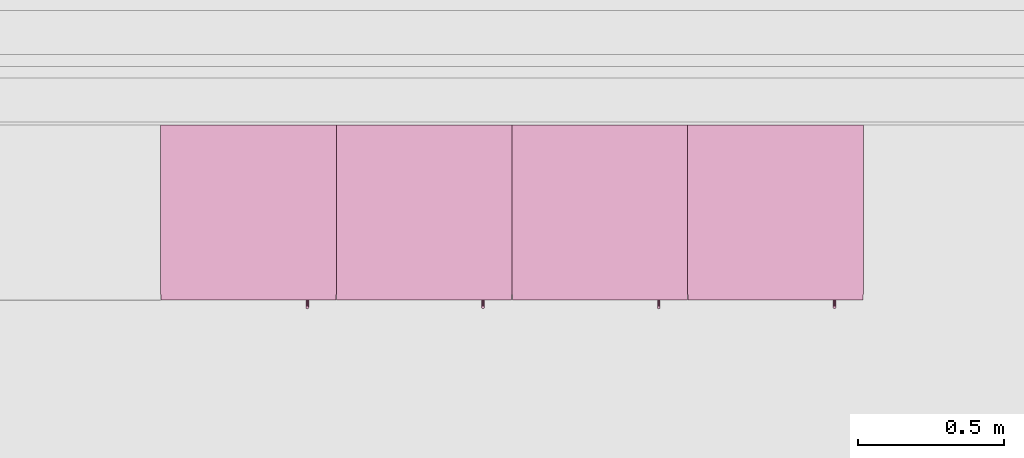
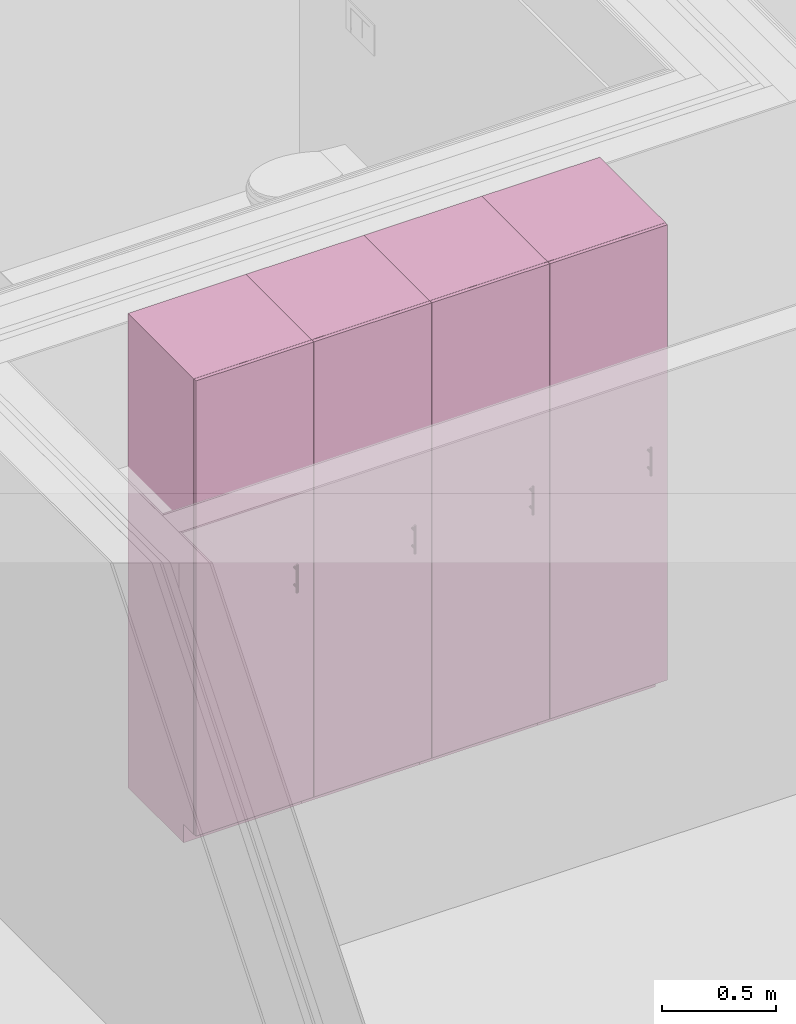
# One storey, part 30 of 34: 4 furniture elements.
"""IFC4 building model written with IfcOpenShell, lengths in millimetres."""

from ifc_helpers import new_model, entity, si_unit, converted_unit, derived_unit, direction, frame, origin_with_axes, place, context, subcontext, project, spatial, polygons, source, transform, mapped, type_object, element, save


model = new_model("IFC4")

# Units and contexts
model_context = context("Model", 3, precision=0.01, world=origin_with_axes(), true_north=direction((0.0, 1.0)))
body_context = subcontext(model_context, "Body", "Model", "MODEL_VIEW")
ifc_project = project(units=[si_unit("LENGTHUNIT", "METRE", prefix="MILLI"), si_unit("AREAUNIT", "SQUARE_METRE"), si_unit("VOLUMEUNIT", "CUBIC_METRE"), converted_unit("PLANEANGLEUNIT", "DEGREE", entity("IfcPlaneAngleMeasure", 0.0174532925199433), si_unit("PLANEANGLEUNIT", "RADIAN"), dimensions=[0, 0, 0, 0, 0, 0, 0]), converted_unit("TIMEUNIT", "Year", entity("IfcTimeMeasure", 31557600.0), si_unit("TIMEUNIT", "SECOND"), dimensions=[0, 0, 1, 0, 0, 0, 0]), si_unit("MASSUNIT", "GRAM", prefix="KILO"), si_unit("THERMODYNAMICTEMPERATUREUNIT", "DEGREE_CELSIUS"), si_unit("LUMINOUSINTENSITYUNIT", "LUMEN"), si_unit("ENERGYUNIT", "JOULE", prefix="MEGA"), derived_unit("THERMALCONDUCTANCEUNIT", [(si_unit("POWERUNIT", "WATT"), 1), (si_unit("LENGTHUNIT", "METRE"), -1), (si_unit("THERMODYNAMICTEMPERATUREUNIT", "KELVIN"), -1)]), derived_unit("SPECIFICHEATCAPACITYUNIT", [(si_unit("ENERGYUNIT", "JOULE"), 1), (si_unit("MASSUNIT", "GRAM", prefix="KILO"), -1), (si_unit("THERMODYNAMICTEMPERATUREUNIT", "KELVIN"), -1)]), derived_unit("MASSDENSITYUNIT", [(si_unit("MASSUNIT", "GRAM", prefix="KILO"), 1), (si_unit("VOLUMEUNIT", "CUBIC_METRE"), -1)])], contexts=[model_context])

# Site, building, storey
site_placement = place(None, origin_with_axes())
site = spatial("IfcSite", under=ifc_project, at=site_placement, Name="Gelände", CompositionType="ELEMENT")
building_placement = place(site_placement, origin_with_axes())
building = spatial("IfcBuilding", under=site, at=building_placement, Name="Gebäude", CompositionType="ELEMENT")
storey_placement = place(building_placement, frame((0.0, 0.0, 2900.0), z_axis=(0.0, 0.0, 1.0), x_axis=(1.0, 0.0, 0.0)))
storey = spatial("IfcBuildingStorey", under=building, at=storey_placement, Name="1.OG", CompositionType="ELEMENT", Elevation=2900.0)

# Furniture
furniture_type = type_object("IfcFurnitureType", Name="Stehender Schrank Block 27", AssemblyPlace="NOTDEFINED", PredefinedType="NOTDEFINED")
shared_shape = source(origin_with_axes(), body_context, "Body", "Tessellation", [
    polygons([(501.8682408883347, -597.9999999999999, 1377.799012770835), (502.7101007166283, -597.9999999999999, 1377.573437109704), (503.4999999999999, -597.9999999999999, 1377.205101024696), (504.2139380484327, -597.9999999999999, 1376.705196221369), (504.8302222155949, -597.9999999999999, 1376.088912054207), (505.3301270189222, -597.9999999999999, 1375.374974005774), (505.6984631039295, -597.9999999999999, 1374.585074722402), (505.924038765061, -597.9999999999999, 1373.743214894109), (506.0, -597.9999999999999, 1372.874974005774), (505.924038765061, -597.9999999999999, 1372.00673311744), (505.6984631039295, -597.9999999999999, 1371.164873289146), (505.3301270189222, -597.9999999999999, 1370.374974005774), (504.8302222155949, -597.9999999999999, 1369.661035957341), (504.2139380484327, -597.9999999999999, 1369.044751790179), (503.4999999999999, -597.9999999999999, 1368.544846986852), (502.7101007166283, -597.9999999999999, 1368.176510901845), (501.8682408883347, -597.9999999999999, 1367.950935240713), (501.0, -597.9999999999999, 1367.874974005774), (500.1317591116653, -597.9999999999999, 1367.950935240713), (499.2898992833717, -597.9999999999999, 1368.176510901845), (498.5, -597.9999999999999, 1368.544846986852), (497.7860619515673, -597.9999999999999, 1369.044751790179), (497.1697777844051, -597.9999999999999, 1369.661035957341), (496.6698729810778, -597.9999999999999, 1370.374974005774), (496.3015368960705, -597.9999999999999, 1371.164873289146), (496.075961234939, -597.9999999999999, 1372.00673311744), (496.0, -597.9999999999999, 1372.874974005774), (496.075961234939, -597.9999999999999, 1373.743214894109), (496.3015368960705, -597.9999999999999, 1374.585074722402), (496.6698729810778, -597.9999999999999, 1375.374974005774), (497.1697777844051, -597.9999999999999, 1376.088912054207), (497.7860619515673, -597.9999999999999, 1376.705196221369), (498.5, -597.9999999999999, 1377.205101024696), (499.2898992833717, -597.9999999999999, 1377.573437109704), (500.1317591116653, -597.9999999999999, 1377.799012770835), (501.0, -597.9999999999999, 1377.874974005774), (501.8682408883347, -622.9999999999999, 1377.799012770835), (502.7101007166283, -622.9999999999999, 1377.573437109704), (503.4999999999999, -622.9999999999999, 1377.205101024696), (504.2139380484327, -622.9999999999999, 1376.705196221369), (504.8302222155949, -622.9999999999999, 1376.088912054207), (505.3301270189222, -622.9999999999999, 1375.374974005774), (505.6984631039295, -622.9999999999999, 1374.585074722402), (505.924038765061, -622.9999999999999, 1373.743214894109), (506.0, -622.9999999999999, 1372.874974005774), (505.924038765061, -622.9999999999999, 1372.00673311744), (505.6984631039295, -622.9999999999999, 1371.164873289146), (505.3301270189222, -622.9999999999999, 1370.374974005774), (504.8302222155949, -622.9999999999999, 1369.661035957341), (504.2139380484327, -622.9999999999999, 1369.044751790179), (503.4999999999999, -622.9999999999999, 1368.544846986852), (502.7101007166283, -622.9999999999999, 1368.176510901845), (501.8682408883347, -622.9999999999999, 1367.950935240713), (501.0, -622.9999999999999, 1367.874974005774), (500.1317591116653, -622.9999999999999, 1367.950935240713), (499.2898992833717, -622.9999999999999, 1368.176510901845), (498.5, -622.9999999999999, 1368.544846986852), (497.7860619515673, -622.9999999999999, 1369.044751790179), (497.1697777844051, -622.9999999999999, 1369.661035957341), (496.6698729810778, -622.9999999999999, 1370.374974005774), (496.3015368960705, -622.9999999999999, 1371.164873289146), (496.075961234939, -622.9999999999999, 1372.00673311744), (496.0, -622.9999999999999, 1372.874974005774), (496.075961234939, -622.9999999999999, 1373.743214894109), (496.3015368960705, -622.9999999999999, 1374.585074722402), (496.6698729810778, -622.9999999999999, 1375.374974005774), (497.1697777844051, -622.9999999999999, 1376.088912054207), (497.7860619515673, -622.9999999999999, 1376.705196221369), (498.5, -622.9999999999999, 1377.205101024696), (499.2898992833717, -622.9999999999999, 1377.573437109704), (500.1317591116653, -622.9999999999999, 1377.799012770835), (501.0, -622.9999999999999, 1377.874974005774)], [[[1, 2, 3, 4, 5, 6, 7, 8, 9, 10, 11, 12, 13, 14, 15, 16, 17, 18, 19, 20, 21, 22, 23, 24, 25, 26, 27, 28, 29, 30, 31, 32, 33, 34, 35, 36]], [[2, 1, 37, 38]], [[3, 2, 38, 39]], [[4, 3, 39, 40]], [[5, 4, 40, 41]], [[6, 5, 41, 42]], [[7, 6, 42, 43]], [[8, 7, 43, 44]], [[9, 8, 44, 45]], [[10, 9, 45, 46]], [[11, 10, 46, 47]], [[12, 11, 47, 48]], [[13, 12, 48, 49]], [[14, 13, 49, 50]], [[15, 14, 50, 51]], [[16, 15, 51, 52]], [[17, 16, 52, 53]], [[18, 17, 53, 54]], [[19, 18, 54, 55]], [[20, 19, 55, 56]], [[21, 20, 56, 57]], [[22, 21, 57, 58]], [[23, 22, 58, 59]], [[24, 23, 59, 60]], [[25, 24, 60, 61]], [[26, 25, 61, 62]], [[27, 26, 62, 63]], [[28, 27, 63, 64]], [[29, 28, 64, 65]], [[30, 29, 65, 66]], [[31, 30, 66, 67]], [[32, 31, 67, 68]], [[33, 32, 68, 69]], [[34, 33, 69, 70]], [[35, 34, 70, 71]], [[36, 35, 71, 72]], [[1, 36, 72, 37]], [[37, 72, 71, 70, 69, 68, 67, 66, 65, 64, 63, 62, 61, 60, 59, 58, 57, 56, 55, 54, 53, 52, 51, 50, 49, 48, 47, 46, 45, 44, 43, 42, 41, 40, 39, 38]]], closed=True),
    polygons([(501.8682408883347, -597.9999999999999, 1274.200935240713), (501.0, -597.9999999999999, 1274.124974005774), (500.1317591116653, -597.9999999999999, 1274.200935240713), (499.2898992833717, -597.9999999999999, 1274.426510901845), (498.5, -597.9999999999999, 1274.794846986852), (497.7860619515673, -597.9999999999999, 1275.294751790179), (497.1697777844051, -597.9999999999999, 1275.911035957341), (496.6698729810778, -597.9999999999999, 1276.624974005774), (496.3015368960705, -597.9999999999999, 1277.414873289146), (496.075961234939, -597.9999999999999, 1278.25673311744), (496.0, -597.9999999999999, 1279.124974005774), (496.075961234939, -597.9999999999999, 1279.993214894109), (496.3015368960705, -597.9999999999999, 1280.835074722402), (496.6698729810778, -597.9999999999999, 1281.624974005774), (497.1697777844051, -597.9999999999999, 1282.338912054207), (497.7860619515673, -597.9999999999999, 1282.955196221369), (498.5, -597.9999999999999, 1283.455101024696), (499.2898992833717, -597.9999999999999, 1283.823437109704), (500.1317591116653, -597.9999999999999, 1284.049012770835), (501.0, -597.9999999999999, 1284.124974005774), (501.8682408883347, -597.9999999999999, 1284.049012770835), (502.7101007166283, -597.9999999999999, 1283.823437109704), (503.4999999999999, -597.9999999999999, 1283.455101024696), (504.2139380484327, -597.9999999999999, 1282.955196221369), (504.8302222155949, -597.9999999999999, 1282.338912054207), (505.3301270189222, -597.9999999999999, 1281.624974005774), (505.6984631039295, -597.9999999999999, 1280.835074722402), (505.924038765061, -597.9999999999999, 1279.993214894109), (506.0, -597.9999999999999, 1279.124974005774), (505.924038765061, -597.9999999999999, 1278.25673311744), (505.6984631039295, -597.9999999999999, 1277.414873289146), (505.3301270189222, -597.9999999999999, 1276.624974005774), (504.8302222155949, -597.9999999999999, 1275.911035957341), (504.2139380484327, -597.9999999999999, 1275.294751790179), (503.4999999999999, -597.9999999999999, 1274.794846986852), (502.7101007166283, -597.9999999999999, 1274.426510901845), (501.8682408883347, -622.9999999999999, 1274.200935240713), (501.0, -622.9999999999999, 1274.124974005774), (500.1317591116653, -622.9999999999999, 1274.200935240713), (499.2898992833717, -622.9999999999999, 1274.426510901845), (498.5, -622.9999999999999, 1274.794846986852), (497.7860619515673, -622.9999999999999, 1275.294751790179), (497.1697777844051, -622.9999999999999, 1275.911035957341), (496.6698729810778, -622.9999999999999, 1276.624974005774), (496.3015368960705, -622.9999999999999, 1277.414873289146), (496.075961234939, -622.9999999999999, 1278.25673311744), (496.0, -622.9999999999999, 1279.124974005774), (496.075961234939, -622.9999999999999, 1279.993214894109), (496.3015368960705, -622.9999999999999, 1280.835074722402), (496.6698729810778, -622.9999999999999, 1281.624974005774), (497.1697777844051, -622.9999999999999, 1282.338912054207), (497.7860619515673, -622.9999999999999, 1282.955196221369), (498.5, -622.9999999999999, 1283.455101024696), (499.2898992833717, -622.9999999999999, 1283.823437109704), (500.1317591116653, -622.9999999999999, 1284.049012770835), (501.0, -622.9999999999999, 1284.124974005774), (501.8682408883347, -622.9999999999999, 1284.049012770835), (502.7101007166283, -622.9999999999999, 1283.823437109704), (503.4999999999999, -622.9999999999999, 1283.455101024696), (504.2139380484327, -622.9999999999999, 1282.955196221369), (504.8302222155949, -622.9999999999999, 1282.338912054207), (505.3301270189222, -622.9999999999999, 1281.624974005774), (505.6984631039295, -622.9999999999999, 1280.835074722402), (505.924038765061, -622.9999999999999, 1279.993214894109), (506.0, -622.9999999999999, 1279.124974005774), (505.924038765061, -622.9999999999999, 1278.25673311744), (505.6984631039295, -622.9999999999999, 1277.414873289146), (505.3301270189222, -622.9999999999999, 1276.624974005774), (504.8302222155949, -622.9999999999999, 1275.911035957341), (504.2139380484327, -622.9999999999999, 1275.294751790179), (503.4999999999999, -622.9999999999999, 1274.794846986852), (502.7101007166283, -622.9999999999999, 1274.426510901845)], [[[1, 2, 3, 4, 5, 6, 7, 8, 9, 10, 11, 12, 13, 14, 15, 16, 17, 18, 19, 20, 21, 22, 23, 24, 25, 26, 27, 28, 29, 30, 31, 32, 33, 34, 35, 36]], [[1, 37, 38, 2]], [[2, 38, 39, 3]], [[3, 39, 40, 4]], [[4, 40, 41, 5]], [[5, 41, 42, 6]], [[6, 42, 43, 7]], [[7, 43, 44, 8]], [[8, 44, 45, 9]], [[9, 45, 46, 10]], [[10, 46, 47, 11]], [[11, 47, 48, 12]], [[12, 48, 49, 13]], [[13, 49, 50, 14]], [[14, 50, 51, 15]], [[15, 51, 52, 16]], [[16, 52, 53, 17]], [[17, 53, 54, 18]], [[18, 54, 55, 19]], [[19, 55, 56, 20]], [[20, 56, 57, 21]], [[21, 57, 58, 22]], [[22, 58, 59, 23]], [[23, 59, 60, 24]], [[24, 60, 61, 25]], [[25, 61, 62, 26]], [[26, 62, 63, 27]], [[27, 63, 64, 28]], [[28, 64, 65, 29]], [[29, 65, 66, 30]], [[30, 66, 67, 31]], [[31, 67, 68, 32]], [[32, 68, 69, 33]], [[33, 69, 70, 34]], [[34, 70, 71, 35]], [[35, 71, 72, 36]], [[36, 72, 37, 1]], [[37, 72, 71, 70, 69, 68, 67, 66, 65, 64, 63, 62, 61, 60, 59, 58, 57, 56, 55, 54, 53, 52, 51, 50, 49, 48, 47, 46, 45, 44, 43, 42, 41, 40, 39, 38]]], closed=True),
    polygons([(501.8682408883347, -618.0759612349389, 1250.999974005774), (502.7101007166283, -618.3015368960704, 1250.999974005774), (503.4999999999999, -618.6698729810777, 1250.999974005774), (504.2139380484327, -619.1697777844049, 1250.999974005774), (504.8302222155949, -619.7860619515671, 1250.999974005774), (505.3301270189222, -620.4999999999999, 1250.999974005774), (505.6984631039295, -621.2898992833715, 1250.999974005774), (505.924038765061, -622.1317591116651, 1250.999974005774), (506.0, -622.9999999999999, 1250.999974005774), (505.924038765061, -623.8682408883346, 1250.999974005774), (505.6984631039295, -624.7101007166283, 1250.999974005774), (505.3301270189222, -625.4999999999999, 1250.999974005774), (504.8302222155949, -626.2139380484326, 1250.999974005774), (504.2139380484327, -626.8302222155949, 1250.999974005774), (503.4999999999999, -627.3301270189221, 1250.999974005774), (502.7101007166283, -627.6984631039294, 1250.999974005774), (501.8682408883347, -627.924038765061, 1250.999974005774), (501.0, -627.9999999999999, 1250.999974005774), (500.1317591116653, -627.924038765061, 1250.999974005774), (499.2898992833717, -627.6984631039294, 1250.999974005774), (498.5, -627.3301270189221, 1250.999974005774), (497.7860619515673, -626.8302222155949, 1250.999974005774), (497.1697777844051, -626.2139380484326, 1250.999974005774), (496.6698729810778, -625.4999999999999, 1250.999974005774), (496.3015368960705, -624.7101007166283, 1250.999974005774), (496.075961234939, -623.8682408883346, 1250.999974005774), (496.0, -622.9999999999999, 1250.999974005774), (496.075961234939, -622.1317591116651, 1250.999974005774), (496.3015368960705, -621.2898992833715, 1250.999974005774), (496.6698729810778, -620.4999999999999, 1250.999974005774), (497.1697777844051, -619.7860619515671, 1250.999974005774), (497.7860619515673, -619.1697777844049, 1250.999974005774), (498.5, -618.6698729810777, 1250.999974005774), (499.2898992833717, -618.3015368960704, 1250.999974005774), (500.1317591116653, -618.0759612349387, 1250.999974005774), (501.0, -617.9999999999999, 1250.999974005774), (501.8682408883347, -618.0759612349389, 1400.999974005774), (502.7101007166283, -618.3015368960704, 1400.999974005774), (503.5000000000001, -618.6698729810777, 1400.999974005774), (504.2139380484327, -619.1697777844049, 1400.999974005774), (504.8302222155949, -619.7860619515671, 1400.999974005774), (505.3301270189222, -620.4999999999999, 1400.999974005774), (505.6984631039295, -621.2898992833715, 1400.999974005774), (505.9240387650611, -622.1317591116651, 1400.999974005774), (506.0, -622.9999999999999, 1400.999974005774), (505.9240387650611, -623.8682408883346, 1400.999974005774), (505.6984631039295, -624.7101007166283, 1400.999974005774), (505.3301270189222, -625.4999999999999, 1400.999974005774), (504.8302222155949, -626.2139380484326, 1400.999974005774), (504.2139380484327, -626.8302222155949, 1400.999974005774), (503.5000000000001, -627.3301270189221, 1400.999974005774), (502.7101007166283, -627.6984631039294, 1400.999974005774), (501.8682408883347, -627.924038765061, 1400.999974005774), (501.0, -627.9999999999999, 1400.999974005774), (500.1317591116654, -627.924038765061, 1400.999974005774), (499.2898992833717, -627.6984631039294, 1400.999974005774), (498.5, -627.3301270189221, 1400.999974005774), (497.7860619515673, -626.8302222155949, 1400.999974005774), (497.1697777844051, -626.2139380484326, 1400.999974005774), (496.6698729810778, -625.4999999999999, 1400.999974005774), (496.3015368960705, -624.7101007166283, 1400.999974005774), (496.075961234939, -623.8682408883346, 1400.999974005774), (496.0, -622.9999999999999, 1400.999974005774), (496.075961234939, -622.1317591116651, 1400.999974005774), (496.3015368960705, -621.2898992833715, 1400.999974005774), (496.6698729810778, -620.4999999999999, 1400.999974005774), (497.1697777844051, -619.7860619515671, 1400.999974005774), (497.7860619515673, -619.1697777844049, 1400.999974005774), (498.5, -618.6698729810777, 1400.999974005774), (499.2898992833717, -618.3015368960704, 1400.999974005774), (500.1317591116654, -618.0759612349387, 1400.999974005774), (501.0, -617.9999999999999, 1400.999974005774)], [[[1, 2, 3, 4, 5, 6, 7, 8, 9, 10, 11, 12, 13, 14, 15, 16, 17, 18, 19, 20, 21, 22, 23, 24, 25, 26, 27, 28, 29, 30, 31, 32, 33, 34, 35, 36]], [[2, 1, 37, 38]], [[3, 2, 38, 39]], [[4, 3, 39, 40]], [[5, 4, 40, 41]], [[6, 5, 41, 42]], [[7, 6, 42, 43]], [[8, 7, 43, 44]], [[9, 8, 44, 45]], [[10, 9, 45, 46]], [[11, 10, 46, 47]], [[12, 11, 47, 48]], [[13, 12, 48, 49]], [[14, 13, 49, 50]], [[15, 14, 50, 51]], [[16, 15, 51, 52]], [[17, 16, 52, 53]], [[18, 17, 53, 54]], [[19, 18, 54, 55]], [[20, 19, 55, 56]], [[21, 20, 56, 57]], [[22, 21, 57, 58]], [[23, 22, 58, 59]], [[24, 23, 59, 60]], [[25, 24, 60, 61]], [[26, 25, 61, 62]], [[27, 26, 62, 63]], [[28, 27, 63, 64]], [[29, 28, 64, 65]], [[30, 29, 65, 66]], [[31, 30, 66, 67]], [[32, 31, 67, 68]], [[33, 32, 68, 69]], [[34, 33, 69, 70]], [[35, 34, 70, 71]], [[36, 35, 71, 72]], [[1, 36, 72, 37]], [[37, 72, 71, 70, 69, 68, 67, 66, 65, 64, 63, 62, 61, 60, 59, 58, 57, 56, 55, 54, 53, 52, 51, 50, 49, 48, 47, 46, 45, 44, 43, 42, 41, 40, 39, 38]]], closed=True),
    polygons([(1.0, -580.0, 101.0), (599.0, -580.0, 101.0), (599.0, -598.0, 101.0), (1.0, -598.0, 101.0), (1.0, -579.9999999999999, 2548.999948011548), (599.0, -579.9999999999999, 2548.999948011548), (599.0, -597.9999999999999, 2548.999948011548), (1.0, -597.9999999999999, 2548.999948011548)], [[[1, 2, 3, 4]], [[1, 5, 6, 2]], [[2, 6, 7, 3]], [[4, 3, 7, 8]], [[5, 1, 4, 8]], [[6, 5, 8, 7]]], closed=True),
    polygons([(18.0, -580.0, 100.0), (582.0, -580.0, 100.0), (582.0, -580.0, 118.0), (18.0, -580.0, 118.0), (18.0, 0.0, 100.0), (582.0, 0.0, 100.0), (582.0, 0.0, 118.0), (18.0, 0.0, 118.0)], [[[1, 2, 3, 4]], [[1, 5, 6, 2]], [[2, 6, 7, 3]], [[4, 3, 7, 8]], [[5, 1, 4, 8]], [[6, 5, 8, 7]]], closed=True),
    polygons([(18.0, -580.0, 2531.999948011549), (582.0, -580.0, 2531.999948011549), (582.0, -580.0, 2549.999948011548), (18.0, -580.0, 2549.999948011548), (18.0, 0.0, 2531.999948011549), (582.0, 0.0, 2531.999948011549), (582.0, 0.0, 2549.999948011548), (18.0, 0.0, 2549.999948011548)], [[[1, 2, 3, 4]], [[1, 5, 6, 2]], [[2, 6, 7, 3]], [[4, 3, 7, 8]], [[5, 1, 4, 8]], [[6, 5, 8, 7]]], closed=True),
    polygons([(0.0, 0.0, 100.0), (0.0, -580.0, 100.0), (0.0, -580.0, 2549.999948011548), (0.0, 0.0, 2549.999948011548), (18.0, 0.0, 100.0), (18.0, -580.0, 100.0), (18.0, -580.0, 2549.999948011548), (18.0, 0.0, 2549.999948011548)], [[[1, 2, 3, 4]], [[1, 5, 6, 2]], [[2, 6, 7, 3]], [[4, 3, 7, 8]], [[5, 1, 4, 8]], [[6, 5, 8, 7]]], closed=True),
    polygons([(600.0, -580.0, 100.0), (600.0, 0.0, 100.0), (600.0, 0.0, 2549.999948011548), (600.0, -580.0, 2549.999948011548), (582.0, -580.0, 100.0), (582.0, 0.0, 100.0), (582.0, 0.0, 2549.999948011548), (582.0, -580.0, 2549.999948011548)], [[[1, 2, 3, 4]], [[1, 5, 6, 2]], [[2, 6, 7, 3]], [[4, 3, 7, 8]], [[5, 1, 4, 8]], [[6, 5, 8, 7]]], closed=True),
    polygons([(582.0, -9.0, 118.0), (18.00000000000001, -9.0, 118.0), (18.00000000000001, -9.0, 2531.999948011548), (582.0, -9.0, 2531.999948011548), (582.0, -18.0, 118.0), (18.00000000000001, -18.0, 118.0), (18.00000000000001, -18.0, 2531.999948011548), (582.0, -18.0, 2531.999948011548)], [[[1, 2, 3, 4]], [[1, 5, 6, 2]], [[2, 6, 7, 3]], [[4, 3, 7, 8]], [[5, 1, 4, 8]], [[6, 5, 8, 7]]], closed=True),
    polygons([(0.0, -490.0, 0.0), (600.0, -490.0, 0.0), (600.0, -490.0, 100.0), (0.0, -490.0, 100.0), (0.0, 0.0, 0.0), (600.0, 0.0, 0.0), (600.0, 0.0, 100.0), (0.0, 0.0, 100.0)], [[[1, 2, 3, 4]], [[1, 5, 6, 2]], [[2, 6, 7, 3]], [[4, 3, 7, 8]], [[5, 1, 4, 8]], [[6, 5, 8, 7]]], closed=True),
])
for number, where, z_axis, x_axis in (
    (1, (2302.995800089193, 27974.37338563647, 149.9999999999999), (0.0, 0.0, 1.0), (1.0, 0.0, 0.0)),
    (2, (2902.995800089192, 27974.37338563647, 149.9999999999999), (0.0, 0.0, 1.0), (1.0, 0.0, 0.0)),
    (3, (1102.995800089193, 27974.37338563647, 149.9999999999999), (0.0, 0.0, 1.0), (1.0, 0.0, 0.0)),
    (4, (1702.995800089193, 27974.37338563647, 149.9999999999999), (0.0, 0.0, 1.0), (1.0, 0.0, 0.0)),
):
    element("IfcFurniture", number, at=place(storey_placement, frame(where, z_axis=z_axis, x_axis=x_axis)), inside=storey, type_object=furniture_type, Name="Möbel-021", PredefinedType="NOTDEFINED", context=body_context, shape_type="MappedRepresentation", body=[
        mapped(shared_shape, transform((0.0, 0.0, 0.0))),
    ])

save(model, "model.ifc")
